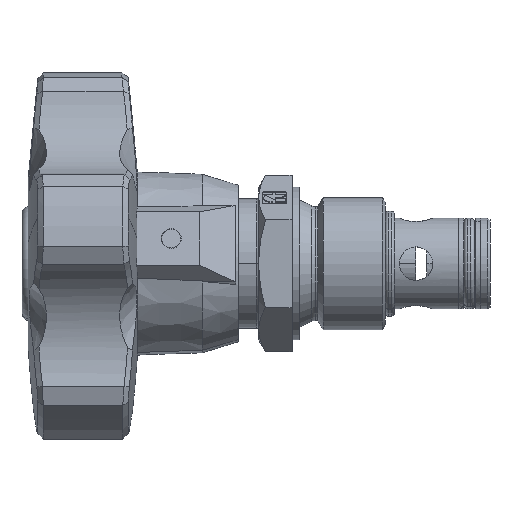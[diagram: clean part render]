
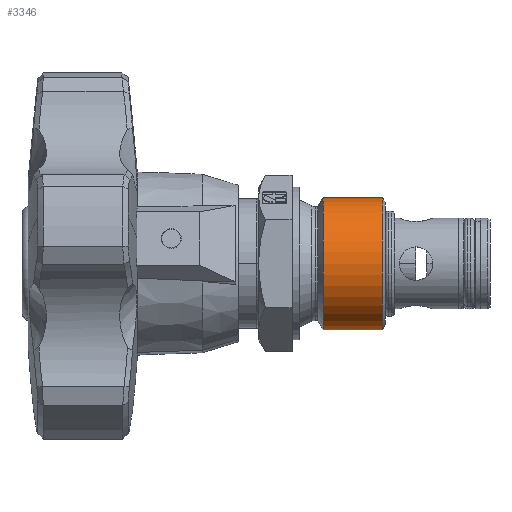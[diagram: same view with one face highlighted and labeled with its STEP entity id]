
A CAD part, left-side view. The second image highlights one B-rep face of the part: STEP entity #3346.
In plain terms, the highlighted cylindrical face has radius 13.85 mm (diameter 27.7 mm), a partial arc.
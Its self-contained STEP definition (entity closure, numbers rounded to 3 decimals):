
#494 = VERTEX_POINT ( 'NONE', #6745 ) ;
#523 = AXIS2_PLACEMENT_3D ( 'NONE', #19257, #8281, #21072 ) ;
#2541 = LINE ( 'NONE', #10385, #7331 ) ;
#2861 = DIRECTION ( 'NONE',  ( 0., -1., 0. ) ) ;
#2889 = LINE ( 'NONE', #12029, #12012 ) ;
#3346 = ADVANCED_FACE ( 'NONE', ( #4596 ), #16894, .T. ) ;
#3358 = EDGE_CURVE ( 'NONE', #494, #6619, #2889, .T. ) ;
#4586 = EDGE_CURVE ( 'NONE', #494, #22932, #16735, .T. ) ;
#4596 = FACE_OUTER_BOUND ( 'NONE', #17289, .T. ) ;
#5230 = AXIS2_PLACEMENT_3D ( 'NONE', #18061, #7096, #19913 ) ;
#5301 = ORIENTED_EDGE ( 'NONE', *, *, #4586, .T. ) ;
#6619 = VERTEX_POINT ( 'NONE', #12468 ) ;
#6745 = CARTESIAN_POINT ( 'NONE',  ( 0., -16.5, 13.85 ) ) ;
#7096 = DIRECTION ( 'NONE',  ( 0., 1., 0. ) ) ;
#7287 = AXIS2_PLACEMENT_3D ( 'NONE', #21131, #2861, #10198 ) ;
#7331 = VECTOR ( 'NONE', #14082, 1000. ) ;
#8203 = CIRCLE ( 'NONE', #5230, 13.85 ) ;
#8281 = DIRECTION ( 'NONE',  ( 0., -1., 0. ) ) ;
#9984 = EDGE_CURVE ( 'NONE', #12007, #6619, #8203, .T. ) ;
#10198 = DIRECTION ( 'NONE',  ( 0., 0., -1. ) ) ;
#10385 = CARTESIAN_POINT ( 'NONE',  ( 0., -51.5, -13.85 ) ) ;
#12007 = VERTEX_POINT ( 'NONE', #23640 ) ;
#12012 = VECTOR ( 'NONE', #15730, 1000. ) ;
#12029 = CARTESIAN_POINT ( 'NONE',  ( 0., -51.5, 13.85 ) ) ;
#12468 = CARTESIAN_POINT ( 'NONE',  ( 0., -28.923, 13.85 ) ) ;
#14082 = DIRECTION ( 'NONE',  ( 0., -1., 0. ) ) ;
#15730 = DIRECTION ( 'NONE',  ( 0., -1., 0. ) ) ;
#16225 = EDGE_CURVE ( 'NONE', #22932, #12007, #2541, .T. ) ;
#16279 = CARTESIAN_POINT ( 'NONE',  ( 0., -16.5, -13.85 ) ) ;
#16735 = CIRCLE ( 'NONE', #523, 13.85 ) ;
#16894 = CYLINDRICAL_SURFACE ( 'NONE', #7287, 13.85 ) ;
#17289 = EDGE_LOOP ( 'NONE', ( #18032, #5301, #21885, #23261 ) ) ;
#18032 = ORIENTED_EDGE ( 'NONE', *, *, #3358, .F. ) ;
#18061 = CARTESIAN_POINT ( 'NONE',  ( 0., -28.923, 0. ) ) ;
#19257 = CARTESIAN_POINT ( 'NONE',  ( 0., -16.5, 0. ) ) ;
#19913 = DIRECTION ( 'NONE',  ( 0., 0., 1. ) ) ;
#21072 = DIRECTION ( 'NONE',  ( 0., 0., -1. ) ) ;
#21131 = CARTESIAN_POINT ( 'NONE',  ( 0., -51.5, 0. ) ) ;
#21885 = ORIENTED_EDGE ( 'NONE', *, *, #16225, .T. ) ;
#22932 = VERTEX_POINT ( 'NONE', #16279 ) ;
#23261 = ORIENTED_EDGE ( 'NONE', *, *, #9984, .T. ) ;
#23640 = CARTESIAN_POINT ( 'NONE',  ( 0., -28.923, -13.85 ) ) ;
